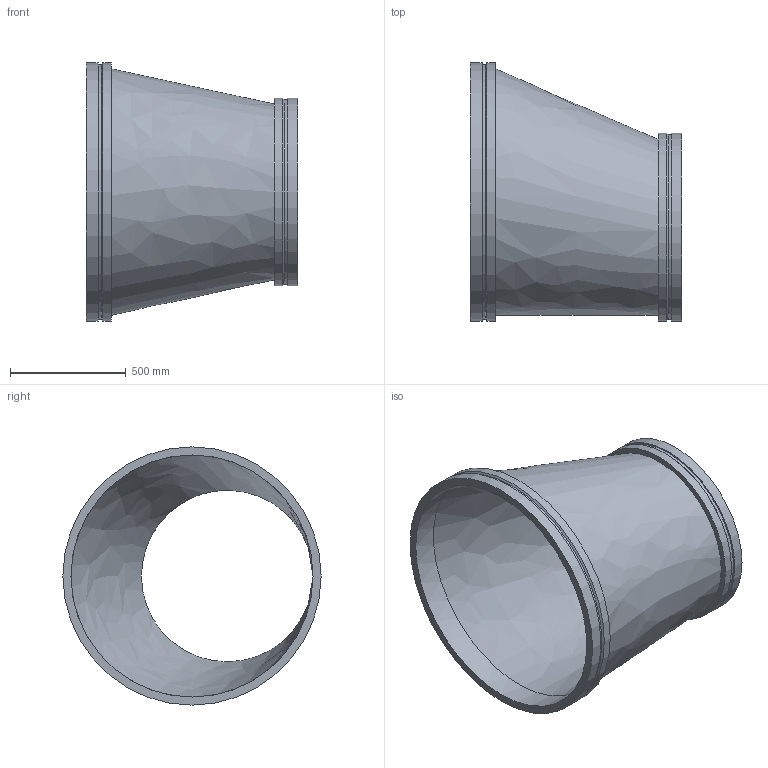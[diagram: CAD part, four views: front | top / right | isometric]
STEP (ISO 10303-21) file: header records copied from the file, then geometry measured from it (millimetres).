
FILE_DESCRIPTION(/* description */ ('VIC REDUCER ECCENTRIC No W51-VR','CAx-IF Rec.Pracs.---Representation and Presentation of Product Manufacturing Information (PMI)---4.0---2014-10-13'),/* implementation_level */ '2;1');
FILE_NAME(/* name */ 'C:\Users\kkamble\AppData\Roaming\Autodesk\ApplicationPlugins\Back Up\Victaulic_Vic-Ring_Reducer Eccentric_No W51 VR (AGR)\Victaulic_Vic-Ring_Reducer Eccentric_No W51 VR (AGR)_42.0x30.0 (1050x750).stp',/* time_stamp */ '2020-09-10T11:51:06+05:00',/* author */ ('CONSTRUCTION PIPING SERVICES'),/* organization */ ('Victaulic'),/* preprocessor_version */ 'ST-DEVELOPER v17.2',/* originating_system */ 'Autodesk Inventor 2019',/* authorisation */ '');
FILE_SCHEMA (('AP242_MANAGED_MODEL_BASED_3D_ENGINEERING_MIM_LF { 1 0 10303 442 1 1 4 }'));
Length unit declared in the file: inch
Products named in the file (1): W51 VR-42.0x30.0
Bounding box: 914.4 x 1117.6 x 1117.6 mm (x, y, z)
Volume: 39792450.1 mm3; surface area: 5794530.5 mm2
Topology: 1 solids, 1 shells, 18 faces, 49 edges, 37 vertices
Faces by surface type: cylinder 8, plane 6, cone 2, bspline 2
Full cylindrical faces by diameter (mm): 742.95 x1, 798.322 x1, 812.8 x2, 1047.75 x1, 1101.725 x1, 1117.6 x2
Entity records: 792 total; most frequent: CARTESIAN_POINT 158, DIRECTION 144, ORIENTED_EDGE 98, AXIS2_PLACEMENT_3D 67, EDGE_CURVE 49, CIRCLE 37, VERTEX_POINT 37, EDGE_LOOP 24
